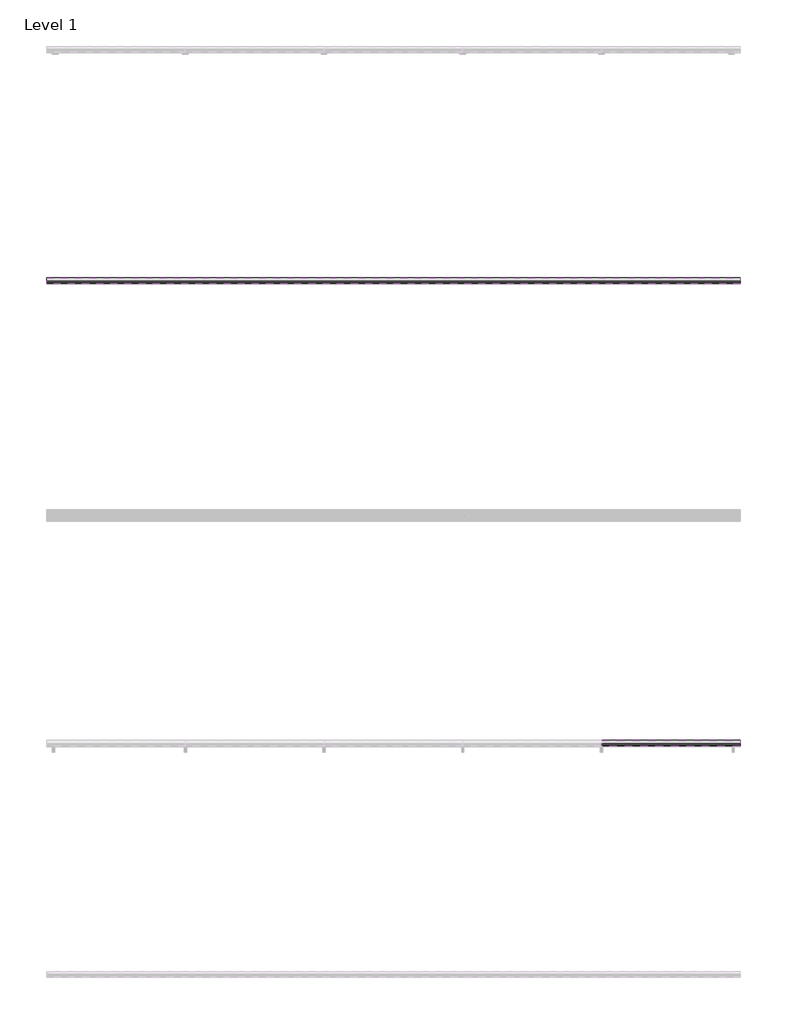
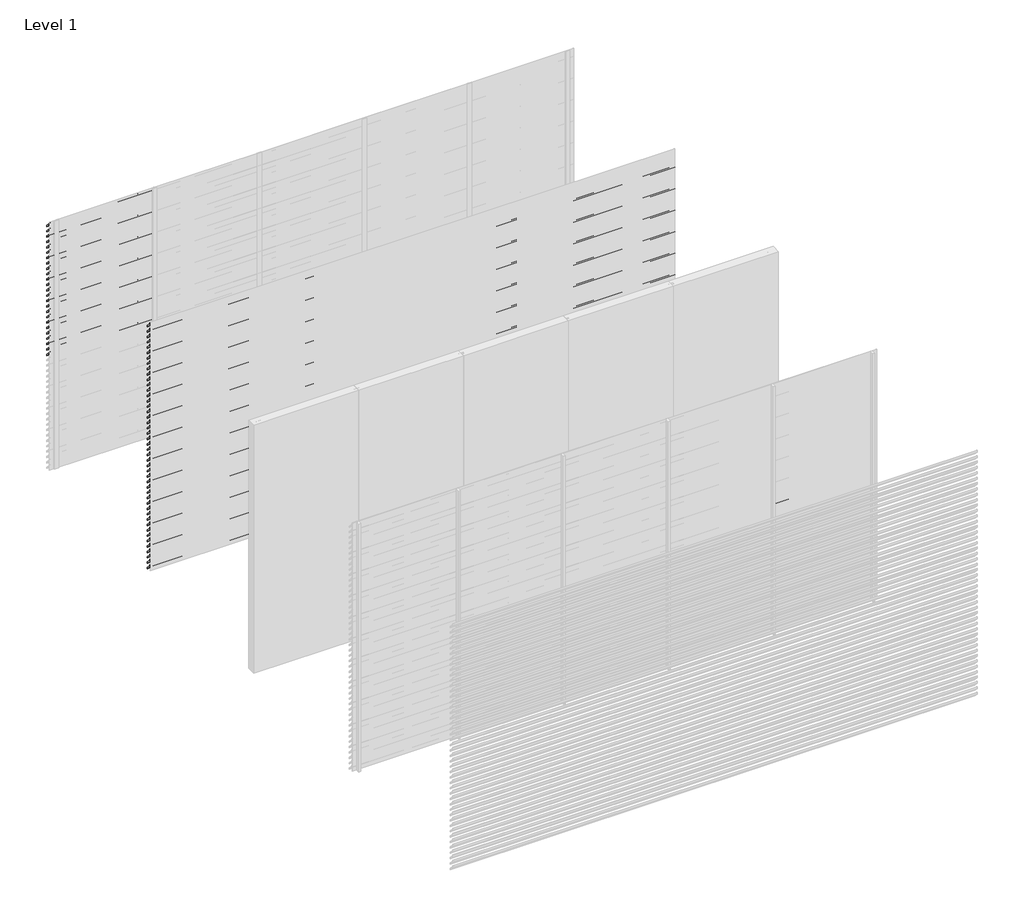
# One storey, part 10 of 12: 98 proxies.
"""IFC4 building model written with IfcOpenShell, lengths in millimetres."""

import ifcopenshell
import ifcopenshell.guid

model = None  # the IFC model being written
_history = None  # IfcOwnerHistory: only IFC2X3 demands one
_inside = {}  # id of a spatial element -> (the spatial element, [elements in it])
_under = {}  # id of a project, library or spatial element -> (it, [spatial elements below it])
_declared = {}  # id of a project -> (the project, [libraries it declares])
_typed = {}  # id of a type object -> (the type object, [elements of that type])
_made_of = {}  # id of a material, layer set ... -> (it, [elements and type objects made of it])


def new_model(schema):
    """Start an empty IFC model of exactly this schema.

    Asked for "IFC4X3", IfcOpenShell would pick the latest addendum, in which some entities
    have other attributes; the version numbers below select the first issue.
    IFC2X3 requires an IfcOwnerHistory on every rooted entity: one is made here for all.
    """
    global model, _history
    if schema == "IFC4X3":
        model = ifcopenshell.file(schema_version=(4, 3, 0, 0))
    else:
        model = ifcopenshell.file(schema=schema)
    _inside.clear()
    _under.clear()
    _declared.clear()
    _typed.clear()
    _made_of.clear()
    _history = None
    if model.schema == "IFC2X3":
        org = make("IfcOrganization", Name="unknown")
        user = make(
            "IfcPersonAndOrganization",
            ThePerson=make("IfcPerson", FamilyName="unknown"),
            TheOrganization=org,
        )
        app = make(
            "IfcApplication",
            ApplicationDeveloper=org,
            Version="unknown",
            ApplicationFullName="unknown",
            ApplicationIdentifier="unknown",
        )
        _history = make(
            "IfcOwnerHistory",
            OwningUser=user,
            OwningApplication=app,
            ChangeAction="ADDED",
            CreationDate=0,
        )
    return model


def make(cls, **values):
    """One entity of the class cls with the attributes given. An attribute that is None is left unset."""
    return model.create_entity(
        cls, **{name: value for name, value in values.items() if value is not None}
    )


def rooted(cls, **values):
    """An entity with a GlobalId (a new one), such as an element, a storey or a relation."""
    return make(cls, GlobalId=ifcopenshell.guid.new(), OwnerHistory=_history, **values)


def si_unit(unit_type, name, prefix=None):
    """IfcSIUnit, for example si_unit("LENGTHUNIT", "METRE", prefix="MILLI")."""
    return make("IfcSIUnit", UnitType=unit_type, Prefix=prefix, Name=name)


def assignment(units):
    """IfcUnitAssignment: the units of a project."""
    return None if units is None else make("IfcUnitAssignment", Units=units)


def point(xyz):
    """IfcCartesianPoint."""
    return None if xyz is None else make("IfcCartesianPoint", Coordinates=xyz)


def direction(xyz):
    """IfcDirection."""
    return None if xyz is None else make("IfcDirection", DirectionRatios=xyz)


def frame(location, z_axis=None, x_axis=None):
    """IfcAxis2Placement3D, a coordinate frame: its origin and axes. An axis left out is left unset."""
    return make(
        "IfcAxis2Placement3D",
        Location=point(location),
        Axis=direction(z_axis),
        RefDirection=direction(x_axis),
    )


def origin():
    """The frame at (0, 0, 0) with its axes left unset."""
    return frame((0.0, 0.0, 0.0))


def place(relative_to, where):
    """IfcLocalPlacement: puts the frame where relative to a parent placement (None: the world)."""
    return make(
        "IfcLocalPlacement", PlacementRelTo=relative_to, RelativePlacement=where
    )


def context(
    kind, dimensions, precision=None, world=None, true_north=None, identifier=None
):
    """IfcGeometricRepresentationContext, for example the 3D "Model" context."""
    return make(
        "IfcGeometricRepresentationContext",
        ContextIdentifier=identifier,
        ContextType=kind,
        CoordinateSpaceDimension=dimensions,
        Precision=precision,
        WorldCoordinateSystem=world,
        TrueNorth=true_north,
    )


def project(units=None, contexts=None):
    """IfcProject with its units and contexts."""
    return rooted(
        "IfcProject",
        Name="project",
        RepresentationContexts=contexts,
        UnitsInContext=assignment(units),
    )


def spatial(cls, under=None, at=None, **own):
    """A site, building, storey or space (cls), placed at a placement, below another one or the project."""
    s = rooted(cls, ObjectPlacement=at, **own)
    if under is not None:
        _under.setdefault(under.id(), (under, []))[1].append(s)
    return s


def polyline(points):
    """IfcPolyline through the points."""
    return make("IfcPolyline", Points=[point(p) for p in points])


def outline(outer, holes=None, kind="AREA"):
    """IfcArbitraryClosedProfileDef: a profile drawn as a closed curve; with holes, ...WithVoids."""
    if holes is None:
        return make("IfcArbitraryClosedProfileDef", ProfileType=kind, OuterCurve=outer)
    return make(
        "IfcArbitraryProfileDefWithVoids",
        ProfileType=kind,
        OuterCurve=outer,
        InnerCurves=holes,
    )


def extrude(swept, where, along, depth):
    """IfcExtrudedAreaSolid: the profile swept, set in the frame where, extruded along a direction by depth."""
    return make(
        "IfcExtrudedAreaSolid",
        SweptArea=swept,
        Position=where,
        ExtrudedDirection=direction(along),
        Depth=depth,
    )


def shape(context_of_items, identifier, shape_type, items):
    """IfcShapeRepresentation: the items that make up one representation, for example the "Body"."""
    return make(
        "IfcShapeRepresentation",
        ContextOfItems=context_of_items,
        RepresentationIdentifier=identifier,
        RepresentationType=shape_type,
        Items=items,
    )


def made_of(thing, what):
    """Note that an element or type object is made of a material, layer set ...; save() writes the relation."""
    if what is not None:
        _made_of.setdefault(what.id(), (what, []))[1].append(thing)
    return thing


def element(
    cls,
    number,
    at=None,
    inside=None,
    cuts=None,
    type_object=None,
    material=None,
    context=None,
    identifier="Body",
    shape_type=None,
    held_by="IfcProductDefinitionShape",
    body=None,
    shapes=None,
    **own,
):
    """One element of the class cls, such as IfcWall. Its Tag is "e" and its number.

    at: its placement. inside: the storey or other place that contains it. cuts: it is an
    opening in that element (IfcRelVoidsElement). A single representation is given by context,
    identifier, shape_type and body (its items); several are given by shapes. held_by: the class
    of the entity that holds the representations. save() writes the other relations.
    """
    e = rooted(cls, Tag="e%d" % number, ObjectPlacement=at, **own)
    if body is not None:
        shapes = [shape(context, identifier, shape_type, body)]
    if shapes is not None:
        e.Representation = make(held_by, Representations=shapes)
    if inside is not None:
        _inside.setdefault(inside.id(), (inside, []))[1].append(e)
    if cuts is not None:
        rooted(
            "IfcRelVoidsElement", RelatingBuildingElement=cuts, RelatedOpeningElement=e
        )
    if type_object is not None:
        _typed.setdefault(type_object.id(), (type_object, []))[1].append(e)
    return made_of(e, material)


def aggregate(whole, parts):
    """IfcRelAggregates: a whole, such as a stair, and the parts it consists of."""
    return rooted("IfcRelAggregates", RelatingObject=whole, RelatedObjects=parts)


def save(model, path):
    """Write the relations noted so far, then the file.

    IfcRelAggregates (storeys below a building ...), IfcRelContainedInSpatialStructure (elements
    in a storey), IfcRelDefinesByType, IfcRelAssociatesMaterial and IfcRelDeclares: one each for
    every whole, place, type object, material and project.
    """
    for whole, parts in _under.values():
        aggregate(whole, parts)
    for where, things in _inside.values():
        rooted(
            "IfcRelContainedInSpatialStructure",
            RelatedElements=things,
            RelatingStructure=where,
        )
    for kind, things in _typed.values():
        rooted("IfcRelDefinesByType", RelatedObjects=things, RelatingType=kind)
    for what, things in _made_of.values():
        rooted("IfcRelAssociatesMaterial", RelatedObjects=things, RelatingMaterial=what)
    for by, libraries in _declared.values():
        rooted("IfcRelDeclares", RelatingContext=by, RelatedDefinitions=libraries)
    model.write(path)


model = new_model("IFC4")

# Units and contexts
model_context = context("Model", 3, world=origin())
ifc_project = project(units=[si_unit("LENGTHUNIT", "METRE", prefix="MILLI")], contexts=[model_context])

# Site, building, storey
site = spatial("IfcSite", under=ifc_project)
building = spatial("IfcBuilding", under=site)
storey = spatial("IfcBuildingStorey", under=building, Name="Level 1", Elevation=0.0)

# Proxies
placement = place(None, origin())
element("IfcBuildingElementProxy", 1, Name="Wall Sweeps", at=placement, inside=storey, context=model_context, shape_type="SweptSolid", body=[
    extrude(outline(polyline([(5.0, 2990.0), (5.0, 2980.7409854), (54.0, 2930.0), (54.0, 2914.0), (3.0, 2966.812046), (3.0, 2990.0), (5.0, 2990.0)])), frame((0.0, 0.0, 0.0), z_axis=(1.0, 0.0, 0.0), x_axis=(0.0, 1.0, 0.0)), (0.0, 0.0, 1.0), 1200.0),
])
element("IfcBuildingElementProxy", 2, Name="Wall Sweeps", at=placement, inside=storey, context=model_context, shape_type="SweptSolid", body=[
    extrude(outline(polyline([(5.0, 2925.0), (5.0, 2915.7409854), (54.0, 2865.0), (54.0, 2849.0), (3.0, 2901.812046), (3.0, 2925.0), (5.0, 2925.0)])), frame((0.0, 0.0, 0.0), z_axis=(1.0, 0.0, 0.0), x_axis=(0.0, 1.0, 0.0)), (0.0, 0.0, 1.0), 1200.0),
])
element("IfcBuildingElementProxy", 3, Name="Wall Sweeps", at=placement, inside=storey, context=model_context, shape_type="SweptSolid", body=[
    extrude(outline(polyline([(5.0, 2860.0), (5.0, 2850.7409854), (54.0, 2800.0), (54.0, 2784.0), (3.0, 2836.812046), (3.0, 2860.0), (5.0, 2860.0)])), frame((0.0, 0.0, 0.0), z_axis=(1.0, 0.0, 0.0), x_axis=(0.0, 1.0, 0.0)), (0.0, 0.0, 1.0), 1200.0),
])
element("IfcBuildingElementProxy", 4, Name="Wall Sweeps", at=placement, inside=storey, context=model_context, shape_type="SweptSolid", body=[
    extrude(outline(polyline([(5.0, 2795.0), (5.0, 2785.7409854), (54.0, 2735.0), (54.0, 2719.0), (3.0, 2771.812046), (3.0, 2795.0), (5.0, 2795.0)])), frame((0.0, 0.0, 0.0), z_axis=(1.0, 0.0, 0.0), x_axis=(0.0, 1.0, 0.0)), (0.0, 0.0, 1.0), 1200.0),
])
element("IfcBuildingElementProxy", 5, Name="Wall Sweeps", at=placement, inside=storey, context=model_context, shape_type="SweptSolid", body=[
    extrude(outline(polyline([(5.0, 2730.0), (5.0, 2720.7409854), (54.0, 2670.0), (54.0, 2654.0), (3.0, 2706.812046), (3.0, 2730.0), (5.0, 2730.0)])), frame((0.0, 0.0, 0.0), z_axis=(1.0, 0.0, 0.0), x_axis=(0.0, 1.0, 0.0)), (0.0, 0.0, 1.0), 1200.0),
])
element("IfcBuildingElementProxy", 6, Name="Wall Sweeps", at=placement, inside=storey, context=model_context, shape_type="SweptSolid", body=[
    extrude(outline(polyline([(5.0, 2665.0), (5.0, 2655.7409854), (54.0, 2605.0), (54.0, 2589.0), (3.0, 2641.812046), (3.0, 2665.0), (5.0, 2665.0)])), frame((0.0, 0.0, 0.0), z_axis=(1.0, 0.0, 0.0), x_axis=(0.0, 1.0, 0.0)), (0.0, 0.0, 1.0), 1200.0),
])
element("IfcBuildingElementProxy", 7, Name="Wall Sweeps", at=placement, inside=storey, context=model_context, shape_type="SweptSolid", body=[
    extrude(outline(polyline([(5.0, 2600.0), (5.0, 2590.7409854), (54.0, 2540.0), (54.0, 2524.0), (3.0, 2576.812046), (3.0, 2600.0), (5.0, 2600.0)])), frame((0.0, 0.0, 0.0), z_axis=(1.0, 0.0, 0.0), x_axis=(0.0, 1.0, 0.0)), (0.0, 0.0, 1.0), 1200.0),
])
element("IfcBuildingElementProxy", 8, Name="Wall Sweeps", at=placement, inside=storey, context=model_context, shape_type="SweptSolid", body=[
    extrude(outline(polyline([(5.0, 2535.0), (5.0, 2525.7409854), (54.0, 2475.0), (54.0, 2459.0), (3.0, 2511.812046), (3.0, 2535.0), (5.0, 2535.0)])), frame((0.0, 0.0, 0.0), z_axis=(1.0, 0.0, 0.0), x_axis=(0.0, 1.0, 0.0)), (0.0, 0.0, 1.0), 1200.0),
])
element("IfcBuildingElementProxy", 9, Name="Wall Sweeps", at=placement, inside=storey, context=model_context, shape_type="SweptSolid", body=[
    extrude(outline(polyline([(5.0, 2470.0), (5.0, 2460.7409854), (54.0, 2410.0), (54.0, 2394.0), (3.0, 2446.812046), (3.0, 2470.0), (5.0, 2470.0)])), frame((0.0, 0.0, 0.0), z_axis=(1.0, 0.0, 0.0), x_axis=(0.0, 1.0, 0.0)), (0.0, 0.0, 1.0), 1200.0),
])
element("IfcBuildingElementProxy", 10, Name="Wall Sweeps", at=placement, inside=storey, context=model_context, shape_type="SweptSolid", body=[
    extrude(outline(polyline([(5.0, 2405.0), (5.0, 2395.7409854), (54.0, 2345.0), (54.0, 2329.0), (3.0, 2381.812046), (3.0, 2405.0), (5.0, 2405.0)])), frame((0.0, 0.0, 0.0), z_axis=(1.0, 0.0, 0.0), x_axis=(0.0, 1.0, 0.0)), (0.0, 0.0, 1.0), 1200.0),
])
element("IfcBuildingElementProxy", 11, Name="Wall Sweeps", at=placement, inside=storey, context=model_context, shape_type="SweptSolid", body=[
    extrude(outline(polyline([(5.0, 2340.0), (5.0, 2330.7409854), (54.0, 2280.0), (54.0, 2264.0), (3.0, 2316.812046), (3.0, 2340.0), (5.0, 2340.0)])), frame((0.0, 0.0, 0.0), z_axis=(1.0, 0.0, 0.0), x_axis=(0.0, 1.0, 0.0)), (0.0, 0.0, 1.0), 1200.0),
])
element("IfcBuildingElementProxy", 12, Name="Wall Sweeps", at=placement, inside=storey, context=model_context, shape_type="SweptSolid", body=[
    extrude(outline(polyline([(5.0, 2275.0), (5.0, 2265.7409854), (54.0, 2215.0), (54.0, 2199.0), (3.0, 2251.812046), (3.0, 2275.0), (5.0, 2275.0)])), frame((0.0, 0.0, 0.0), z_axis=(1.0, 0.0, 0.0), x_axis=(0.0, 1.0, 0.0)), (0.0, 0.0, 1.0), 1200.0),
])
element("IfcBuildingElementProxy", 13, Name="Wall Sweeps", at=placement, inside=storey, context=model_context, shape_type="SweptSolid", body=[
    extrude(outline(polyline([(5.0, 2210.0), (5.0, 2200.7409854), (54.0, 2150.0), (54.0, 2134.0), (3.0, 2186.812046), (3.0, 2210.0), (5.0, 2210.0)])), frame((0.0, 0.0, 0.0), z_axis=(1.0, 0.0, 0.0), x_axis=(0.0, 1.0, 0.0)), (0.0, 0.0, 1.0), 1200.0),
])
element("IfcBuildingElementProxy", 14, Name="Wall Sweeps", at=placement, inside=storey, context=model_context, shape_type="SweptSolid", body=[
    extrude(outline(polyline([(5.0, 2145.0), (5.0, 2135.7409854), (54.0, 2085.0), (54.0, 2069.0), (3.0, 2121.812046), (3.0, 2145.0), (5.0, 2145.0)])), frame((0.0, 0.0, 0.0), z_axis=(1.0, 0.0, 0.0), x_axis=(0.0, 1.0, 0.0)), (0.0, 0.0, 1.0), 1200.0),
])
element("IfcBuildingElementProxy", 15, Name="Wall Sweeps", at=placement, inside=storey, context=model_context, shape_type="SweptSolid", body=[
    extrude(outline(polyline([(5.0, 2080.0), (5.0, 2070.7409854), (54.0, 2020.0), (54.0, 2004.0), (3.0, 2056.812046), (3.0, 2080.0), (5.0, 2080.0)])), frame((0.0, 0.0, 0.0), z_axis=(1.0, 0.0, 0.0), x_axis=(0.0, 1.0, 0.0)), (0.0, 0.0, 1.0), 1200.0),
])
element("IfcBuildingElementProxy", 16, Name="Wall Sweeps", at=placement, inside=storey, context=model_context, shape_type="SweptSolid", body=[
    extrude(outline(polyline([(5.0, 2015.0), (5.0, 2005.7409854), (54.0, 1955.0), (54.0, 1939.0), (3.0, 1991.812046), (3.0, 2015.0), (5.0, 2015.0)])), frame((0.0, 0.0, 0.0), z_axis=(1.0, 0.0, 0.0), x_axis=(0.0, 1.0, 0.0)), (0.0, 0.0, 1.0), 1200.0),
])
element("IfcBuildingElementProxy", 17, Name="Wall Sweeps", at=placement, inside=storey, context=model_context, shape_type="SweptSolid", body=[
    extrude(outline(polyline([(5.0, 1950.0), (5.0, 1940.7409854), (54.0, 1890.0), (54.0, 1874.0), (3.0, 1926.812046), (3.0, 1950.0), (5.0, 1950.0)])), frame((0.0, 0.0, 0.0), z_axis=(1.0, 0.0, 0.0), x_axis=(0.0, 1.0, 0.0)), (0.0, 0.0, 1.0), 1200.0),
])
element("IfcBuildingElementProxy", 18, Name="Wall Sweeps", at=placement, inside=storey, context=model_context, shape_type="SweptSolid", body=[
    extrude(outline(polyline([(5.0, 1885.0), (5.0, 1875.7409854), (54.0, 1825.0), (54.0, 1809.0), (3.0, 1861.812046), (3.0, 1885.0), (5.0, 1885.0)])), frame((0.0, 0.0, 0.0), z_axis=(1.0, 0.0, 0.0), x_axis=(0.0, 1.0, 0.0)), (0.0, 0.0, 1.0), 1200.0),
])
element("IfcBuildingElementProxy", 19, Name="Wall Sweeps", at=placement, inside=storey, context=model_context, shape_type="SweptSolid", body=[
    extrude(outline(polyline([(5.0, 1820.0), (5.0, 1810.7409854), (54.0, 1760.0), (54.0, 1744.0), (3.0, 1796.812046), (3.0, 1820.0), (5.0, 1820.0)])), frame((0.0, 0.0, 0.0), z_axis=(1.0, 0.0, 0.0), x_axis=(0.0, 1.0, 0.0)), (0.0, 0.0, 1.0), 1200.0),
])
element("IfcBuildingElementProxy", 20, Name="Wall Sweeps", at=placement, inside=storey, context=model_context, shape_type="SweptSolid", body=[
    extrude(outline(polyline([(5.0, 1755.0), (5.0, 1745.7409854), (54.0, 1695.0), (54.0, 1679.0), (3.0, 1731.812046), (3.0, 1755.0), (5.0, 1755.0)])), frame((0.0, 0.0, 0.0), z_axis=(1.0, 0.0, 0.0), x_axis=(0.0, 1.0, 0.0)), (0.0, 0.0, 1.0), 1200.0),
])
element("IfcBuildingElementProxy", 21, Name="Wall Sweeps", at=placement, inside=storey, context=model_context, shape_type="SweptSolid", body=[
    extrude(outline(polyline([(5.0, 1690.0), (5.0, 1680.7409854), (54.0, 1630.0), (54.0, 1614.0), (3.0, 1666.812046), (3.0, 1690.0), (5.0, 1690.0)])), frame((0.0, 0.0, 0.0), z_axis=(1.0, 0.0, 0.0), x_axis=(0.0, 1.0, 0.0)), (0.0, 0.0, 1.0), 1200.0),
])
element("IfcBuildingElementProxy", 22, Name="Wall Sweeps", at=placement, inside=storey, context=model_context, shape_type="SweptSolid", body=[
    extrude(outline(polyline([(5.0, 1625.0), (5.0, 1615.7409854), (54.0, 1565.0), (54.0, 1549.0), (3.0, 1601.812046), (3.0, 1625.0), (5.0, 1625.0)])), frame((0.0, 0.0, 0.0), z_axis=(1.0, 0.0, 0.0), x_axis=(0.0, 1.0, 0.0)), (0.0, 0.0, 1.0), 1200.0),
])
element("IfcBuildingElementProxy", 23, Name="Wall Sweeps", at=placement, inside=storey, context=model_context, shape_type="SweptSolid", body=[
    extrude(outline(polyline([(5.0, 1560.0), (5.0, 1550.7409854), (54.0, 1500.0), (54.0, 1484.0), (3.0, 1536.812046), (3.0, 1560.0), (5.0, 1560.0)])), frame((0.0, 0.0, 0.0), z_axis=(1.0, 0.0, 0.0), x_axis=(0.0, 1.0, 0.0)), (0.0, 0.0, 1.0), 1200.0),
])
element("IfcBuildingElementProxy", 24, Name="Wall Sweeps", at=placement, inside=storey, context=model_context, shape_type="SweptSolid", body=[
    extrude(outline(polyline([(5.0, 1495.0), (5.0, 1485.7409854), (54.0, 1435.0), (54.0, 1419.0), (3.0, 1471.812046), (3.0, 1495.0), (5.0, 1495.0)])), frame((0.0, 0.0, 0.0), z_axis=(1.0, 0.0, 0.0), x_axis=(0.0, 1.0, 0.0)), (0.0, 0.0, 1.0), 1200.0),
])
element("IfcBuildingElementProxy", 25, Name="Wall Sweeps", at=placement, inside=storey, context=model_context, shape_type="SweptSolid", body=[
    extrude(outline(polyline([(5.0, 1430.0), (5.0, 1420.7409854), (54.0, 1370.0), (54.0, 1354.0), (3.0, 1406.812046), (3.0, 1430.0), (5.0, 1430.0)])), frame((0.0, 0.0, 0.0), z_axis=(1.0, 0.0, 0.0), x_axis=(0.0, 1.0, 0.0)), (0.0, 0.0, 1.0), 1200.0),
])
element("IfcBuildingElementProxy", 26, Name="Wall Sweeps", at=placement, inside=storey, context=model_context, shape_type="SweptSolid", body=[
    extrude(outline(polyline([(-1995.0, 2990.0), (-1995.0, 2980.7409854), (-1946.0, 2930.0), (-1946.0, 2914.0), (-1997.0, 2966.812046), (-1997.0, 2990.0), (-1995.0, 2990.0)])), frame((0.0, 0.0, 0.0), z_axis=(1.0, 0.0, 0.0), x_axis=(0.0, 1.0, 0.0)), (0.0, 0.0, 1.0), 6000.0),
])
element("IfcBuildingElementProxy", 27, Name="Wall Sweeps", at=placement, inside=storey, context=model_context, shape_type="SweptSolid", body=[
    extrude(outline(polyline([(-1995.0, 2925.0), (-1995.0, 2915.7409854), (-1946.0, 2865.0), (-1946.0, 2849.0), (-1997.0, 2901.812046), (-1997.0, 2925.0), (-1995.0, 2925.0)])), frame((0.0, 0.0, 0.0), z_axis=(1.0, 0.0, 0.0), x_axis=(0.0, 1.0, 0.0)), (0.0, 0.0, 1.0), 6000.0),
])
element("IfcBuildingElementProxy", 28, Name="Wall Sweeps", at=placement, inside=storey, context=model_context, shape_type="SweptSolid", body=[
    extrude(outline(polyline([(-1995.0, 2860.0), (-1995.0, 2850.7409854), (-1946.0, 2800.0), (-1946.0, 2784.0), (-1997.0, 2836.812046), (-1997.0, 2860.0), (-1995.0, 2860.0)])), frame((0.0, 0.0, 0.0), z_axis=(1.0, 0.0, 0.0), x_axis=(0.0, 1.0, 0.0)), (0.0, 0.0, 1.0), 6000.0),
])
element("IfcBuildingElementProxy", 29, Name="Wall Sweeps", at=placement, inside=storey, context=model_context, shape_type="SweptSolid", body=[
    extrude(outline(polyline([(-1995.0, 2795.0), (-1995.0, 2785.7409854), (-1946.0, 2735.0), (-1946.0, 2719.0), (-1997.0, 2771.812046), (-1997.0, 2795.0), (-1995.0, 2795.0)])), frame((0.0, 0.0, 0.0), z_axis=(1.0, 0.0, 0.0), x_axis=(0.0, 1.0, 0.0)), (0.0, 0.0, 1.0), 6000.0),
])
element("IfcBuildingElementProxy", 30, Name="Wall Sweeps", at=placement, inside=storey, context=model_context, shape_type="SweptSolid", body=[
    extrude(outline(polyline([(-1995.0, 2730.0), (-1995.0, 2720.7409854), (-1946.0, 2670.0), (-1946.0, 2654.0), (-1997.0, 2706.812046), (-1997.0, 2730.0), (-1995.0, 2730.0)])), frame((0.0, 0.0, 0.0), z_axis=(1.0, 0.0, 0.0), x_axis=(0.0, 1.0, 0.0)), (0.0, 0.0, 1.0), 6000.0),
])
element("IfcBuildingElementProxy", 31, Name="Wall Sweeps", at=placement, inside=storey, context=model_context, shape_type="SweptSolid", body=[
    extrude(outline(polyline([(-1995.0, 2665.0), (-1995.0, 2655.7409854), (-1946.0, 2605.0), (-1946.0, 2589.0), (-1997.0, 2641.812046), (-1997.0, 2665.0), (-1995.0, 2665.0)])), frame((0.0, 0.0, 0.0), z_axis=(1.0, 0.0, 0.0), x_axis=(0.0, 1.0, 0.0)), (0.0, 0.0, 1.0), 6000.0),
])
element("IfcBuildingElementProxy", 32, Name="Wall Sweeps", at=placement, inside=storey, context=model_context, shape_type="SweptSolid", body=[
    extrude(outline(polyline([(-1995.0, 2600.0), (-1995.0, 2590.7409854), (-1946.0, 2540.0), (-1946.0, 2524.0), (-1997.0, 2576.812046), (-1997.0, 2600.0), (-1995.0, 2600.0)])), frame((0.0, 0.0, 0.0), z_axis=(1.0, 0.0, 0.0), x_axis=(0.0, 1.0, 0.0)), (0.0, 0.0, 1.0), 6000.0),
])
element("IfcBuildingElementProxy", 33, Name="Wall Sweeps", at=placement, inside=storey, context=model_context, shape_type="SweptSolid", body=[
    extrude(outline(polyline([(-1995.0, 2535.0), (-1995.0, 2525.7409854), (-1946.0, 2475.0), (-1946.0, 2459.0), (-1997.0, 2511.812046), (-1997.0, 2535.0), (-1995.0, 2535.0)])), frame((0.0, 0.0, 0.0), z_axis=(1.0, 0.0, 0.0), x_axis=(0.0, 1.0, 0.0)), (0.0, 0.0, 1.0), 6000.0),
])
element("IfcBuildingElementProxy", 34, Name="Wall Sweeps", at=placement, inside=storey, context=model_context, shape_type="SweptSolid", body=[
    extrude(outline(polyline([(-1995.0, 2470.0), (-1995.0, 2460.7409854), (-1946.0, 2410.0), (-1946.0, 2394.0), (-1997.0, 2446.812046), (-1997.0, 2470.0), (-1995.0, 2470.0)])), frame((0.0, 0.0, 0.0), z_axis=(1.0, 0.0, 0.0), x_axis=(0.0, 1.0, 0.0)), (0.0, 0.0, 1.0), 6000.0),
])
element("IfcBuildingElementProxy", 35, Name="Wall Sweeps", at=placement, inside=storey, context=model_context, shape_type="SweptSolid", body=[
    extrude(outline(polyline([(-1995.0, 2405.0), (-1995.0, 2395.7409854), (-1946.0, 2345.0), (-1946.0, 2329.0), (-1997.0, 2381.812046), (-1997.0, 2405.0), (-1995.0, 2405.0)])), frame((0.0, 0.0, 0.0), z_axis=(1.0, 0.0, 0.0), x_axis=(0.0, 1.0, 0.0)), (0.0, 0.0, 1.0), 6000.0),
])
element("IfcBuildingElementProxy", 36, Name="Wall Sweeps", at=placement, inside=storey, context=model_context, shape_type="SweptSolid", body=[
    extrude(outline(polyline([(-1995.0, 2340.0), (-1995.0, 2330.7409854), (-1946.0, 2280.0), (-1946.0, 2264.0), (-1997.0, 2316.812046), (-1997.0, 2340.0), (-1995.0, 2340.0)])), frame((0.0, 0.0, 0.0), z_axis=(1.0, 0.0, 0.0), x_axis=(0.0, 1.0, 0.0)), (0.0, 0.0, 1.0), 6000.0),
])
element("IfcBuildingElementProxy", 37, Name="Wall Sweeps", at=placement, inside=storey, context=model_context, shape_type="SweptSolid", body=[
    extrude(outline(polyline([(-1995.0, 2275.0), (-1995.0, 2265.7409854), (-1946.0, 2215.0), (-1946.0, 2199.0), (-1997.0, 2251.812046), (-1997.0, 2275.0), (-1995.0, 2275.0)])), frame((0.0, 0.0, 0.0), z_axis=(1.0, 0.0, 0.0), x_axis=(0.0, 1.0, 0.0)), (0.0, 0.0, 1.0), 6000.0),
])
element("IfcBuildingElementProxy", 38, Name="Wall Sweeps", at=placement, inside=storey, context=model_context, shape_type="SweptSolid", body=[
    extrude(outline(polyline([(-1995.0, 2210.0), (-1995.0, 2200.7409854), (-1946.0, 2150.0), (-1946.0, 2134.0), (-1997.0, 2186.812046), (-1997.0, 2210.0), (-1995.0, 2210.0)])), frame((0.0, 0.0, 0.0), z_axis=(1.0, 0.0, 0.0), x_axis=(0.0, 1.0, 0.0)), (0.0, 0.0, 1.0), 6000.0),
])
element("IfcBuildingElementProxy", 39, Name="Wall Sweeps", at=placement, inside=storey, context=model_context, shape_type="SweptSolid", body=[
    extrude(outline(polyline([(-1995.0, 2145.0), (-1995.0, 2135.7409854), (-1946.0, 2085.0), (-1946.0, 2069.0), (-1997.0, 2121.812046), (-1997.0, 2145.0), (-1995.0, 2145.0)])), frame((0.0, 0.0, 0.0), z_axis=(1.0, 0.0, 0.0), x_axis=(0.0, 1.0, 0.0)), (0.0, 0.0, 1.0), 6000.0),
])
element("IfcBuildingElementProxy", 40, Name="Wall Sweeps", at=placement, inside=storey, context=model_context, shape_type="SweptSolid", body=[
    extrude(outline(polyline([(-1995.0, 2080.0), (-1995.0, 2070.7409854), (-1946.0, 2020.0), (-1946.0, 2004.0), (-1997.0, 2056.812046), (-1997.0, 2080.0), (-1995.0, 2080.0)])), frame((0.0, 0.0, 0.0), z_axis=(1.0, 0.0, 0.0), x_axis=(0.0, 1.0, 0.0)), (0.0, 0.0, 1.0), 6000.0),
])
element("IfcBuildingElementProxy", 41, Name="Wall Sweeps", at=placement, inside=storey, context=model_context, shape_type="SweptSolid", body=[
    extrude(outline(polyline([(-1995.0, 2015.0), (-1995.0, 2005.7409854), (-1946.0, 1955.0), (-1946.0, 1939.0), (-1997.0, 1991.812046), (-1997.0, 2015.0), (-1995.0, 2015.0)])), frame((0.0, 0.0, 0.0), z_axis=(1.0, 0.0, 0.0), x_axis=(0.0, 1.0, 0.0)), (0.0, 0.0, 1.0), 6000.0),
])
element("IfcBuildingElementProxy", 42, Name="Wall Sweeps", at=placement, inside=storey, context=model_context, shape_type="SweptSolid", body=[
    extrude(outline(polyline([(-1995.0, 1950.0), (-1995.0, 1940.7409854), (-1946.0, 1890.0), (-1946.0, 1874.0), (-1997.0, 1926.812046), (-1997.0, 1950.0), (-1995.0, 1950.0)])), frame((0.0, 0.0, 0.0), z_axis=(1.0, 0.0, 0.0), x_axis=(0.0, 1.0, 0.0)), (0.0, 0.0, 1.0), 6000.0),
])
element("IfcBuildingElementProxy", 43, Name="Wall Sweeps", at=placement, inside=storey, context=model_context, shape_type="SweptSolid", body=[
    extrude(outline(polyline([(-1995.0, 1885.0), (-1995.0, 1875.7409854), (-1946.0, 1825.0), (-1946.0, 1809.0), (-1997.0, 1861.812046), (-1997.0, 1885.0), (-1995.0, 1885.0)])), frame((0.0, 0.0, 0.0), z_axis=(1.0, 0.0, 0.0), x_axis=(0.0, 1.0, 0.0)), (0.0, 0.0, 1.0), 6000.0),
])
element("IfcBuildingElementProxy", 44, Name="Wall Sweeps", at=placement, inside=storey, context=model_context, shape_type="SweptSolid", body=[
    extrude(outline(polyline([(-1995.0, 1820.0), (-1995.0, 1810.7409854), (-1946.0, 1760.0), (-1946.0, 1744.0), (-1997.0, 1796.812046), (-1997.0, 1820.0), (-1995.0, 1820.0)])), frame((0.0, 0.0, 0.0), z_axis=(1.0, 0.0, 0.0), x_axis=(0.0, 1.0, 0.0)), (0.0, 0.0, 1.0), 6000.0),
])
element("IfcBuildingElementProxy", 45, Name="Wall Sweeps", at=placement, inside=storey, context=model_context, shape_type="SweptSolid", body=[
    extrude(outline(polyline([(-1995.0, 1755.0), (-1995.0, 1745.7409854), (-1946.0, 1695.0), (-1946.0, 1679.0), (-1997.0, 1731.812046), (-1997.0, 1755.0), (-1995.0, 1755.0)])), frame((0.0, 0.0, 0.0), z_axis=(1.0, 0.0, 0.0), x_axis=(0.0, 1.0, 0.0)), (0.0, 0.0, 1.0), 6000.0),
])
element("IfcBuildingElementProxy", 46, Name="Wall Sweeps", at=placement, inside=storey, context=model_context, shape_type="SweptSolid", body=[
    extrude(outline(polyline([(-1995.0, 1690.0), (-1995.0, 1680.7409854), (-1946.0, 1630.0), (-1946.0, 1614.0), (-1997.0, 1666.812046), (-1997.0, 1690.0), (-1995.0, 1690.0)])), frame((0.0, 0.0, 0.0), z_axis=(1.0, 0.0, 0.0), x_axis=(0.0, 1.0, 0.0)), (0.0, 0.0, 1.0), 6000.0),
])
element("IfcBuildingElementProxy", 47, Name="Wall Sweeps", at=placement, inside=storey, context=model_context, shape_type="SweptSolid", body=[
    extrude(outline(polyline([(-1995.0, 1625.0), (-1995.0, 1615.7409854), (-1946.0, 1565.0), (-1946.0, 1549.0), (-1997.0, 1601.812046), (-1997.0, 1625.0), (-1995.0, 1625.0)])), frame((0.0, 0.0, 0.0), z_axis=(1.0, 0.0, 0.0), x_axis=(0.0, 1.0, 0.0)), (0.0, 0.0, 1.0), 6000.0),
])
element("IfcBuildingElementProxy", 48, Name="Wall Sweeps", at=placement, inside=storey, context=model_context, shape_type="SweptSolid", body=[
    extrude(outline(polyline([(-1995.0, 1560.0), (-1995.0, 1550.7409854), (-1946.0, 1500.0), (-1946.0, 1484.0), (-1997.0, 1536.812046), (-1997.0, 1560.0), (-1995.0, 1560.0)])), frame((0.0, 0.0, 0.0), z_axis=(1.0, 0.0, 0.0), x_axis=(0.0, 1.0, 0.0)), (0.0, 0.0, 1.0), 6000.0),
])
element("IfcBuildingElementProxy", 49, Name="Wall Sweeps", at=placement, inside=storey, context=model_context, shape_type="SweptSolid", body=[
    extrude(outline(polyline([(-1995.0, 1495.0), (-1995.0, 1485.7409854), (-1946.0, 1435.0), (-1946.0, 1419.0), (-1997.0, 1471.812046), (-1997.0, 1495.0), (-1995.0, 1495.0)])), frame((0.0, 0.0, 0.0), z_axis=(1.0, 0.0, 0.0), x_axis=(0.0, 1.0, 0.0)), (0.0, 0.0, 1.0), 6000.0),
])
element("IfcBuildingElementProxy", 50, Name="Wall Sweeps", at=placement, inside=storey, context=model_context, shape_type="SweptSolid", body=[
    extrude(outline(polyline([(-1995.0, 1430.0), (-1995.0, 1420.7409854), (-1946.0, 1370.0), (-1946.0, 1354.0), (-1997.0, 1406.812046), (-1997.0, 1430.0), (-1995.0, 1430.0)])), frame((0.0, 0.0, 0.0), z_axis=(1.0, 0.0, 0.0), x_axis=(0.0, 1.0, 0.0)), (0.0, 0.0, 1.0), 6000.0),
])
element("IfcBuildingElementProxy", 51, Name="Wall Sweeps", at=placement, inside=storey, context=model_context, shape_type="SweptSolid", body=[
    extrude(outline(polyline([(-1995.0, 1365.0), (-1995.0, 1355.7409854), (-1946.0, 1305.0), (-1946.0, 1289.0), (-1997.0, 1341.812046), (-1997.0, 1365.0), (-1995.0, 1365.0)])), frame((0.0, 0.0, 0.0), z_axis=(1.0, 0.0, 0.0), x_axis=(0.0, 1.0, 0.0)), (0.0, 0.0, 1.0), 6000.0),
])
element("IfcBuildingElementProxy", 52, Name="Wall Sweeps", at=placement, inside=storey, context=model_context, shape_type="SweptSolid", body=[
    extrude(outline(polyline([(-1995.0, 1300.0), (-1995.0, 1290.7409854), (-1946.0, 1240.0), (-1946.0, 1224.0), (-1997.0, 1276.812046), (-1997.0, 1300.0), (-1995.0, 1300.0)])), frame((0.0, 0.0, 0.0), z_axis=(1.0, 0.0, 0.0), x_axis=(0.0, 1.0, 0.0)), (0.0, 0.0, 1.0), 6000.0),
])
element("IfcBuildingElementProxy", 53, Name="Wall Sweeps", at=placement, inside=storey, context=model_context, shape_type="SweptSolid", body=[
    extrude(outline(polyline([(-1995.0, 1235.0), (-1995.0, 1225.7409854), (-1946.0, 1175.0), (-1946.0, 1159.0), (-1997.0, 1211.812046), (-1997.0, 1235.0), (-1995.0, 1235.0)])), frame((0.0, 0.0, 0.0), z_axis=(1.0, 0.0, 0.0), x_axis=(0.0, 1.0, 0.0)), (0.0, 0.0, 1.0), 6000.0),
])
element("IfcBuildingElementProxy", 54, Name="Wall Sweeps", at=placement, inside=storey, context=model_context, shape_type="SweptSolid", body=[
    extrude(outline(polyline([(-1995.0, 1170.0), (-1995.0, 1160.7409854), (-1946.0, 1110.0), (-1946.0, 1094.0), (-1997.0, 1146.812046), (-1997.0, 1170.0), (-1995.0, 1170.0)])), frame((0.0, 0.0, 0.0), z_axis=(1.0, 0.0, 0.0), x_axis=(0.0, 1.0, 0.0)), (0.0, 0.0, 1.0), 6000.0),
])
element("IfcBuildingElementProxy", 55, Name="Wall Sweeps", at=placement, inside=storey, context=model_context, shape_type="SweptSolid", body=[
    extrude(outline(polyline([(-1995.0, 1105.0), (-1995.0, 1095.7409854), (-1946.0, 1045.0), (-1946.0, 1029.0), (-1997.0, 1081.812046), (-1997.0, 1105.0), (-1995.0, 1105.0)])), frame((0.0, 0.0, 0.0), z_axis=(1.0, 0.0, 0.0), x_axis=(0.0, 1.0, 0.0)), (0.0, 0.0, 1.0), 6000.0),
])
element("IfcBuildingElementProxy", 56, Name="Wall Sweeps", at=placement, inside=storey, context=model_context, shape_type="SweptSolid", body=[
    extrude(outline(polyline([(-1995.0, 1040.0), (-1995.0, 1030.7409854), (-1946.0, 980.0), (-1946.0, 964.0), (-1997.0, 1016.812046), (-1997.0, 1040.0), (-1995.0, 1040.0)])), frame((0.0, 0.0, 0.0), z_axis=(1.0, 0.0, 0.0), x_axis=(0.0, 1.0, 0.0)), (0.0, 0.0, 1.0), 6000.0),
])
element("IfcBuildingElementProxy", 57, Name="Wall Sweeps", at=placement, inside=storey, context=model_context, shape_type="SweptSolid", body=[
    extrude(outline(polyline([(-1995.0, 975.0), (-1995.0, 965.7409854), (-1946.0, 915.0), (-1946.0, 899.0), (-1997.0, 951.812046), (-1997.0, 975.0), (-1995.0, 975.0)])), frame((0.0, 0.0, 0.0), z_axis=(1.0, 0.0, 0.0), x_axis=(0.0, 1.0, 0.0)), (0.0, 0.0, 1.0), 6000.0),
])
element("IfcBuildingElementProxy", 58, Name="Wall Sweeps", at=placement, inside=storey, context=model_context, shape_type="SweptSolid", body=[
    extrude(outline(polyline([(-1995.0, 910.0), (-1995.0, 900.7409854), (-1946.0, 850.0), (-1946.0, 834.0), (-1997.0, 886.812046), (-1997.0, 910.0), (-1995.0, 910.0)])), frame((0.0, 0.0, 0.0), z_axis=(1.0, 0.0, 0.0), x_axis=(0.0, 1.0, 0.0)), (0.0, 0.0, 1.0), 6000.0),
])
element("IfcBuildingElementProxy", 59, Name="Wall Sweeps", at=placement, inside=storey, context=model_context, shape_type="SweptSolid", body=[
    extrude(outline(polyline([(-1995.0, 845.0), (-1995.0, 835.7409854), (-1946.0, 785.0), (-1946.0, 769.0), (-1997.0, 821.812046), (-1997.0, 845.0), (-1995.0, 845.0)])), frame((0.0, 0.0, 0.0), z_axis=(1.0, 0.0, 0.0), x_axis=(0.0, 1.0, 0.0)), (0.0, 0.0, 1.0), 6000.0),
])
element("IfcBuildingElementProxy", 60, Name="Wall Sweeps", at=placement, inside=storey, context=model_context, shape_type="SweptSolid", body=[
    extrude(outline(polyline([(-1995.0, 780.0), (-1995.0, 770.7409854), (-1946.0, 720.0), (-1946.0, 704.0), (-1997.0, 756.812046), (-1997.0, 780.0), (-1995.0, 780.0)])), frame((0.0, 0.0, 0.0), z_axis=(1.0, 0.0, 0.0), x_axis=(0.0, 1.0, 0.0)), (0.0, 0.0, 1.0), 6000.0),
])
element("IfcBuildingElementProxy", 61, Name="Wall Sweeps", at=placement, inside=storey, context=model_context, shape_type="SweptSolid", body=[
    extrude(outline(polyline([(-1995.0, 715.0), (-1995.0, 705.7409854), (-1946.0, 655.0), (-1946.0, 639.0), (-1997.0, 691.812046), (-1997.0, 715.0), (-1995.0, 715.0)])), frame((0.0, 0.0, 0.0), z_axis=(1.0, 0.0, 0.0), x_axis=(0.0, 1.0, 0.0)), (0.0, 0.0, 1.0), 6000.0),
])
element("IfcBuildingElementProxy", 62, Name="Wall Sweeps", at=placement, inside=storey, context=model_context, shape_type="SweptSolid", body=[
    extrude(outline(polyline([(-1995.0, 650.0), (-1995.0, 640.7409854), (-1946.0, 590.0), (-1946.0, 574.0), (-1997.0, 626.812046), (-1997.0, 650.0), (-1995.0, 650.0)])), frame((0.0, 0.0, 0.0), z_axis=(1.0, 0.0, 0.0), x_axis=(0.0, 1.0, 0.0)), (0.0, 0.0, 1.0), 6000.0),
])
element("IfcBuildingElementProxy", 63, Name="Wall Sweeps", at=placement, inside=storey, context=model_context, shape_type="SweptSolid", body=[
    extrude(outline(polyline([(-1995.0, 585.0), (-1995.0, 575.7409854), (-1946.0, 525.0), (-1946.0, 509.0), (-1997.0, 561.812046), (-1997.0, 585.0), (-1995.0, 585.0)])), frame((0.0, 0.0, 0.0), z_axis=(1.0, 0.0, 0.0), x_axis=(0.0, 1.0, 0.0)), (0.0, 0.0, 1.0), 6000.0),
])
element("IfcBuildingElementProxy", 64, Name="Wall Sweeps", at=placement, inside=storey, context=model_context, shape_type="SweptSolid", body=[
    extrude(outline(polyline([(-1995.0, 520.0), (-1995.0, 510.7409854), (-1946.0, 460.0), (-1946.0, 444.0), (-1997.0, 496.812046), (-1997.0, 520.0), (-1995.0, 520.0)])), frame((0.0, 0.0, 0.0), z_axis=(1.0, 0.0, 0.0), x_axis=(0.0, 1.0, 0.0)), (0.0, 0.0, 1.0), 6000.0),
])
element("IfcBuildingElementProxy", 65, Name="Wall Sweeps", at=placement, inside=storey, context=model_context, shape_type="SweptSolid", body=[
    extrude(outline(polyline([(-1995.0, 455.0), (-1995.0, 445.7409854), (-1946.0, 395.0), (-1946.0, 379.0), (-1997.0, 431.812046), (-1997.0, 455.0), (-1995.0, 455.0)])), frame((0.0, 0.0, 0.0), z_axis=(1.0, 0.0, 0.0), x_axis=(0.0, 1.0, 0.0)), (0.0, 0.0, 1.0), 6000.0),
])
element("IfcBuildingElementProxy", 66, Name="Wall Sweeps", at=placement, inside=storey, context=model_context, shape_type="SweptSolid", body=[
    extrude(outline(polyline([(-1995.0, 390.0), (-1995.0, 380.7409854), (-1946.0, 330.0), (-1946.0, 314.0), (-1997.0, 366.812046), (-1997.0, 390.0), (-1995.0, 390.0)])), frame((0.0, 0.0, 0.0), z_axis=(1.0, 0.0, 0.0), x_axis=(0.0, 1.0, 0.0)), (0.0, 0.0, 1.0), 6000.0),
])
element("IfcBuildingElementProxy", 67, Name="Wall Sweeps", at=placement, inside=storey, context=model_context, shape_type="SweptSolid", body=[
    extrude(outline(polyline([(-1995.0, 325.0), (-1995.0, 315.7409854), (-1946.0, 265.0), (-1946.0, 249.0), (-1997.0, 301.812046), (-1997.0, 325.0), (-1995.0, 325.0)])), frame((0.0, 0.0, 0.0), z_axis=(1.0, 0.0, 0.0), x_axis=(0.0, 1.0, 0.0)), (0.0, 0.0, 1.0), 6000.0),
])
element("IfcBuildingElementProxy", 68, Name="Wall Sweeps", at=placement, inside=storey, context=model_context, shape_type="SweptSolid", body=[
    extrude(outline(polyline([(-1995.0, 260.0), (-1995.0, 250.7409854), (-1946.0, 200.0), (-1946.0, 184.0), (-1997.0, 236.812046), (-1997.0, 260.0), (-1995.0, 260.0)])), frame((0.0, 0.0, 0.0), z_axis=(1.0, 0.0, 0.0), x_axis=(0.0, 1.0, 0.0)), (0.0, 0.0, 1.0), 6000.0),
])
element("IfcBuildingElementProxy", 69, Name="Wall Sweeps", at=placement, inside=storey, context=model_context, shape_type="SweptSolid", body=[
    extrude(outline(polyline([(-1995.0, 195.0), (-1995.0, 185.7409854), (-1946.0, 135.0), (-1946.0, 119.0), (-1997.0, 171.812046), (-1997.0, 195.0), (-1995.0, 195.0)])), frame((0.0, 0.0, 0.0), z_axis=(1.0, 0.0, 0.0), x_axis=(0.0, 1.0, 0.0)), (0.0, 0.0, 1.0), 6000.0),
])
element("IfcBuildingElementProxy", 70, Name="Wall Sweeps", at=placement, inside=storey, context=model_context, shape_type="SweptSolid", body=[
    extrude(outline(polyline([(-1995.0, 130.0), (-1995.0, 120.7409854), (-1946.0, 70.0), (-1946.0, 54.0), (-1997.0, 106.812046), (-1997.0, 130.0), (-1995.0, 130.0)])), frame((0.0, 0.0, 0.0), z_axis=(1.0, 0.0, 0.0), x_axis=(0.0, 1.0, 0.0)), (0.0, 0.0, 1.0), 6000.0),
])
element("IfcBuildingElementProxy", 71, Name="Wall Sweeps", at=placement, inside=storey, context=model_context, shape_type="SweptSolid", body=[
    extrude(outline(polyline([(-1995.0, 65.0), (-1995.0, 55.7409854), (-1946.0, 5.0), (-1946.0, -11.0), (-1997.0, 41.812046), (-1997.0, 65.0), (-1995.0, 65.0)])), frame((0.0, 0.0, 0.0), z_axis=(1.0, 0.0, 0.0), x_axis=(0.0, 1.0, 0.0)), (0.0, 0.0, 1.0), 6000.0),
])
element("IfcBuildingElementProxy", 72, Name="Wall Sweeps", at=placement, inside=storey, context=model_context, shape_type="SweptSolid", body=[
    extrude(outline(polyline([(-5995.0, 1755.0), (-5995.0, 1745.7409854), (-5946.0, 1695.0), (-5946.0, 1679.0), (-5997.0, 1731.812046), (-5997.0, 1755.0), (-5995.0, 1755.0)])), frame((4800.0, 0.0, 0.0), z_axis=(1.0, 0.0, 0.0), x_axis=(0.0, 1.0, 0.0)), (0.0, 0.0, 1.0), 1200.0),
])
element("IfcBuildingElementProxy", 73, Name="Wall Sweeps", at=placement, inside=storey, context=model_context, shape_type="SweptSolid", body=[
    extrude(outline(polyline([(-5995.0, 1690.0), (-5995.0, 1680.7409854), (-5946.0, 1630.0), (-5946.0, 1614.0), (-5997.0, 1666.812046), (-5997.0, 1690.0), (-5995.0, 1690.0)])), frame((4800.0, 0.0, 0.0), z_axis=(1.0, 0.0, 0.0), x_axis=(0.0, 1.0, 0.0)), (0.0, 0.0, 1.0), 1200.0),
])
element("IfcBuildingElementProxy", 74, Name="Wall Sweeps", at=placement, inside=storey, context=model_context, shape_type="SweptSolid", body=[
    extrude(outline(polyline([(-5995.0, 1625.0), (-5995.0, 1615.7409854), (-5946.0, 1565.0), (-5946.0, 1549.0), (-5997.0, 1601.812046), (-5997.0, 1625.0), (-5995.0, 1625.0)])), frame((4800.0, 0.0, 0.0), z_axis=(1.0, 0.0, 0.0), x_axis=(0.0, 1.0, 0.0)), (0.0, 0.0, 1.0), 1200.0),
])
element("IfcBuildingElementProxy", 75, Name="Wall Sweeps", at=placement, inside=storey, context=model_context, shape_type="SweptSolid", body=[
    extrude(outline(polyline([(-5995.0, 1560.0), (-5995.0, 1550.7409854), (-5946.0, 1500.0), (-5946.0, 1484.0), (-5997.0, 1536.812046), (-5997.0, 1560.0), (-5995.0, 1560.0)])), frame((4800.0, 0.0, 0.0), z_axis=(1.0, 0.0, 0.0), x_axis=(0.0, 1.0, 0.0)), (0.0, 0.0, 1.0), 1200.0),
])
element("IfcBuildingElementProxy", 76, Name="Wall Sweeps", at=placement, inside=storey, context=model_context, shape_type="SweptSolid", body=[
    extrude(outline(polyline([(-5995.0, 1495.0), (-5995.0, 1485.7409854), (-5946.0, 1435.0), (-5946.0, 1419.0), (-5997.0, 1471.812046), (-5997.0, 1495.0), (-5995.0, 1495.0)])), frame((4800.0, 0.0, 0.0), z_axis=(1.0, 0.0, 0.0), x_axis=(0.0, 1.0, 0.0)), (0.0, 0.0, 1.0), 1200.0),
])
element("IfcBuildingElementProxy", 77, Name="Wall Sweeps", at=placement, inside=storey, context=model_context, shape_type="SweptSolid", body=[
    extrude(outline(polyline([(-5995.0, 1430.0), (-5995.0, 1420.7409854), (-5946.0, 1370.0), (-5946.0, 1354.0), (-5997.0, 1406.812046), (-5997.0, 1430.0), (-5995.0, 1430.0)])), frame((4800.0, 0.0, 0.0), z_axis=(1.0, 0.0, 0.0), x_axis=(0.0, 1.0, 0.0)), (0.0, 0.0, 1.0), 1200.0),
])
element("IfcBuildingElementProxy", 78, Name="Wall Sweeps", at=placement, inside=storey, context=model_context, shape_type="SweptSolid", body=[
    extrude(outline(polyline([(-5995.0, 1365.0), (-5995.0, 1355.7409854), (-5946.0, 1305.0), (-5946.0, 1289.0), (-5997.0, 1341.812046), (-5997.0, 1365.0), (-5995.0, 1365.0)])), frame((4800.0, 0.0, 0.0), z_axis=(1.0, 0.0, 0.0), x_axis=(0.0, 1.0, 0.0)), (0.0, 0.0, 1.0), 1200.0),
])
element("IfcBuildingElementProxy", 79, Name="Wall Sweeps", at=placement, inside=storey, context=model_context, shape_type="SweptSolid", body=[
    extrude(outline(polyline([(-5995.0, 1300.0), (-5995.0, 1290.7409854), (-5946.0, 1240.0), (-5946.0, 1224.0), (-5997.0, 1276.812046), (-5997.0, 1300.0), (-5995.0, 1300.0)])), frame((4800.0, 0.0, 0.0), z_axis=(1.0, 0.0, 0.0), x_axis=(0.0, 1.0, 0.0)), (0.0, 0.0, 1.0), 1200.0),
])
element("IfcBuildingElementProxy", 80, Name="Wall Sweeps", at=placement, inside=storey, context=model_context, shape_type="SweptSolid", body=[
    extrude(outline(polyline([(-5995.0, 1235.0), (-5995.0, 1225.7409854), (-5946.0, 1175.0), (-5946.0, 1159.0), (-5997.0, 1211.812046), (-5997.0, 1235.0), (-5995.0, 1235.0)])), frame((4800.0, 0.0, 0.0), z_axis=(1.0, 0.0, 0.0), x_axis=(0.0, 1.0, 0.0)), (0.0, 0.0, 1.0), 1200.0),
])
element("IfcBuildingElementProxy", 81, Name="Wall Sweeps", at=placement, inside=storey, context=model_context, shape_type="SweptSolid", body=[
    extrude(outline(polyline([(-5995.0, 1170.0), (-5995.0, 1160.7409854), (-5946.0, 1110.0), (-5946.0, 1094.0), (-5997.0, 1146.812046), (-5997.0, 1170.0), (-5995.0, 1170.0)])), frame((4800.0, 0.0, 0.0), z_axis=(1.0, 0.0, 0.0), x_axis=(0.0, 1.0, 0.0)), (0.0, 0.0, 1.0), 1200.0),
])
element("IfcBuildingElementProxy", 82, Name="Wall Sweeps", at=placement, inside=storey, context=model_context, shape_type="SweptSolid", body=[
    extrude(outline(polyline([(-5995.0, 1105.0), (-5995.0, 1095.7409854), (-5946.0, 1045.0), (-5946.0, 1029.0), (-5997.0, 1081.812046), (-5997.0, 1105.0), (-5995.0, 1105.0)])), frame((4800.0, 0.0, 0.0), z_axis=(1.0, 0.0, 0.0), x_axis=(0.0, 1.0, 0.0)), (0.0, 0.0, 1.0), 1200.0),
])
element("IfcBuildingElementProxy", 83, Name="Wall Sweeps", at=placement, inside=storey, context=model_context, shape_type="SweptSolid", body=[
    extrude(outline(polyline([(-5995.0, 1040.0), (-5995.0, 1030.7409854), (-5946.0, 980.0), (-5946.0, 964.0), (-5997.0, 1016.812046), (-5997.0, 1040.0), (-5995.0, 1040.0)])), frame((4800.0, 0.0, 0.0), z_axis=(1.0, 0.0, 0.0), x_axis=(0.0, 1.0, 0.0)), (0.0, 0.0, 1.0), 1200.0),
])
element("IfcBuildingElementProxy", 84, Name="Wall Sweeps", at=placement, inside=storey, context=model_context, shape_type="SweptSolid", body=[
    extrude(outline(polyline([(-5995.0, 975.0), (-5995.0, 965.7409854), (-5946.0, 915.0), (-5946.0, 899.0), (-5997.0, 951.812046), (-5997.0, 975.0), (-5995.0, 975.0)])), frame((4800.0, 0.0, 0.0), z_axis=(1.0, 0.0, 0.0), x_axis=(0.0, 1.0, 0.0)), (0.0, 0.0, 1.0), 1200.0),
])
element("IfcBuildingElementProxy", 85, Name="Wall Sweeps", at=placement, inside=storey, context=model_context, shape_type="SweptSolid", body=[
    extrude(outline(polyline([(-5995.0, 910.0), (-5995.0, 900.7409854), (-5946.0, 850.0), (-5946.0, 834.0), (-5997.0, 886.812046), (-5997.0, 910.0), (-5995.0, 910.0)])), frame((4800.0, 0.0, 0.0), z_axis=(1.0, 0.0, 0.0), x_axis=(0.0, 1.0, 0.0)), (0.0, 0.0, 1.0), 1200.0),
])
element("IfcBuildingElementProxy", 86, Name="Wall Sweeps", at=placement, inside=storey, context=model_context, shape_type="SweptSolid", body=[
    extrude(outline(polyline([(-5995.0, 845.0), (-5995.0, 835.7409854), (-5946.0, 785.0), (-5946.0, 769.0), (-5997.0, 821.812046), (-5997.0, 845.0), (-5995.0, 845.0)])), frame((4800.0, 0.0, 0.0), z_axis=(1.0, 0.0, 0.0), x_axis=(0.0, 1.0, 0.0)), (0.0, 0.0, 1.0), 1200.0),
])
element("IfcBuildingElementProxy", 87, Name="Wall Sweeps", at=placement, inside=storey, context=model_context, shape_type="SweptSolid", body=[
    extrude(outline(polyline([(-5995.0, 780.0), (-5995.0, 770.7409854), (-5946.0, 720.0), (-5946.0, 704.0), (-5997.0, 756.812046), (-5997.0, 780.0), (-5995.0, 780.0)])), frame((4800.0, 0.0, 0.0), z_axis=(1.0, 0.0, 0.0), x_axis=(0.0, 1.0, 0.0)), (0.0, 0.0, 1.0), 1200.0),
])
element("IfcBuildingElementProxy", 88, Name="Wall Sweeps", at=placement, inside=storey, context=model_context, shape_type="SweptSolid", body=[
    extrude(outline(polyline([(-5995.0, 715.0), (-5995.0, 705.7409854), (-5946.0, 655.0), (-5946.0, 639.0), (-5997.0, 691.812046), (-5997.0, 715.0), (-5995.0, 715.0)])), frame((4800.0, 0.0, 0.0), z_axis=(1.0, 0.0, 0.0), x_axis=(0.0, 1.0, 0.0)), (0.0, 0.0, 1.0), 1200.0),
])
element("IfcBuildingElementProxy", 89, Name="Wall Sweeps", at=placement, inside=storey, context=model_context, shape_type="SweptSolid", body=[
    extrude(outline(polyline([(-5995.0, 650.0), (-5995.0, 640.7409854), (-5946.0, 590.0), (-5946.0, 574.0), (-5997.0, 626.812046), (-5997.0, 650.0), (-5995.0, 650.0)])), frame((4800.0, 0.0, 0.0), z_axis=(1.0, 0.0, 0.0), x_axis=(0.0, 1.0, 0.0)), (0.0, 0.0, 1.0), 1200.0),
])
element("IfcBuildingElementProxy", 90, Name="Wall Sweeps", at=placement, inside=storey, context=model_context, shape_type="SweptSolid", body=[
    extrude(outline(polyline([(-5995.0, 585.0), (-5995.0, 575.7409854), (-5946.0, 525.0), (-5946.0, 509.0), (-5997.0, 561.812046), (-5997.0, 585.0), (-5995.0, 585.0)])), frame((4800.0, 0.0, 0.0), z_axis=(1.0, 0.0, 0.0), x_axis=(0.0, 1.0, 0.0)), (0.0, 0.0, 1.0), 1200.0),
])
element("IfcBuildingElementProxy", 91, Name="Wall Sweeps", at=placement, inside=storey, context=model_context, shape_type="SweptSolid", body=[
    extrude(outline(polyline([(-5995.0, 520.0), (-5995.0, 510.7409854), (-5946.0, 460.0), (-5946.0, 444.0), (-5997.0, 496.812046), (-5997.0, 520.0), (-5995.0, 520.0)])), frame((4800.0, 0.0, 0.0), z_axis=(1.0, 0.0, 0.0), x_axis=(0.0, 1.0, 0.0)), (0.0, 0.0, 1.0), 1200.0),
])
element("IfcBuildingElementProxy", 92, Name="Wall Sweeps", at=placement, inside=storey, context=model_context, shape_type="SweptSolid", body=[
    extrude(outline(polyline([(-5995.0, 455.0), (-5995.0, 445.7409854), (-5946.0, 395.0), (-5946.0, 379.0), (-5997.0, 431.812046), (-5997.0, 455.0), (-5995.0, 455.0)])), frame((4800.0, 0.0, 0.0), z_axis=(1.0, 0.0, 0.0), x_axis=(0.0, 1.0, 0.0)), (0.0, 0.0, 1.0), 1200.0),
])
element("IfcBuildingElementProxy", 93, Name="Wall Sweeps", at=placement, inside=storey, context=model_context, shape_type="SweptSolid", body=[
    extrude(outline(polyline([(-5995.0, 390.0), (-5995.0, 380.7409854), (-5946.0, 330.0), (-5946.0, 314.0), (-5997.0, 366.812046), (-5997.0, 390.0), (-5995.0, 390.0)])), frame((4800.0, 0.0, 0.0), z_axis=(1.0, 0.0, 0.0), x_axis=(0.0, 1.0, 0.0)), (0.0, 0.0, 1.0), 1200.0),
])
element("IfcBuildingElementProxy", 94, Name="Wall Sweeps", at=placement, inside=storey, context=model_context, shape_type="SweptSolid", body=[
    extrude(outline(polyline([(-5995.0, 325.0), (-5995.0, 315.7409854), (-5946.0, 265.0), (-5946.0, 249.0), (-5997.0, 301.812046), (-5997.0, 325.0), (-5995.0, 325.0)])), frame((4800.0, 0.0, 0.0), z_axis=(1.0, 0.0, 0.0), x_axis=(0.0, 1.0, 0.0)), (0.0, 0.0, 1.0), 1200.0),
])
element("IfcBuildingElementProxy", 95, Name="Wall Sweeps", at=placement, inside=storey, context=model_context, shape_type="SweptSolid", body=[
    extrude(outline(polyline([(-5995.0, 260.0), (-5995.0, 250.7409854), (-5946.0, 200.0), (-5946.0, 184.0), (-5997.0, 236.812046), (-5997.0, 260.0), (-5995.0, 260.0)])), frame((4800.0, 0.0, 0.0), z_axis=(1.0, 0.0, 0.0), x_axis=(0.0, 1.0, 0.0)), (0.0, 0.0, 1.0), 1200.0),
])
element("IfcBuildingElementProxy", 96, Name="Wall Sweeps", at=placement, inside=storey, context=model_context, shape_type="SweptSolid", body=[
    extrude(outline(polyline([(-5995.0, 195.0), (-5995.0, 185.7409854), (-5946.0, 135.0), (-5946.0, 119.0), (-5997.0, 171.812046), (-5997.0, 195.0), (-5995.0, 195.0)])), frame((4800.0, 0.0, 0.0), z_axis=(1.0, 0.0, 0.0), x_axis=(0.0, 1.0, 0.0)), (0.0, 0.0, 1.0), 1200.0),
])
element("IfcBuildingElementProxy", 97, Name="Wall Sweeps", at=placement, inside=storey, context=model_context, shape_type="SweptSolid", body=[
    extrude(outline(polyline([(-5995.0, 130.0), (-5995.0, 120.7409854), (-5946.0, 70.0), (-5946.0, 54.0), (-5997.0, 106.812046), (-5997.0, 130.0), (-5995.0, 130.0)])), frame((4800.0, 0.0, 0.0), z_axis=(1.0, 0.0, 0.0), x_axis=(0.0, 1.0, 0.0)), (0.0, 0.0, 1.0), 1200.0),
])
element("IfcBuildingElementProxy", 98, Name="Wall Sweeps", at=placement, inside=storey, context=model_context, shape_type="SweptSolid", body=[
    extrude(outline(polyline([(-5995.0, 65.0), (-5995.0, 55.7409854), (-5946.0, 5.0), (-5946.0, -11.0), (-5997.0, 41.812046), (-5997.0, 65.0), (-5995.0, 65.0)])), frame((4800.0, 0.0, 0.0), z_axis=(1.0, 0.0, 0.0), x_axis=(0.0, 1.0, 0.0)), (0.0, 0.0, 1.0), 1200.0),
])

save(model, "model.ifc")
